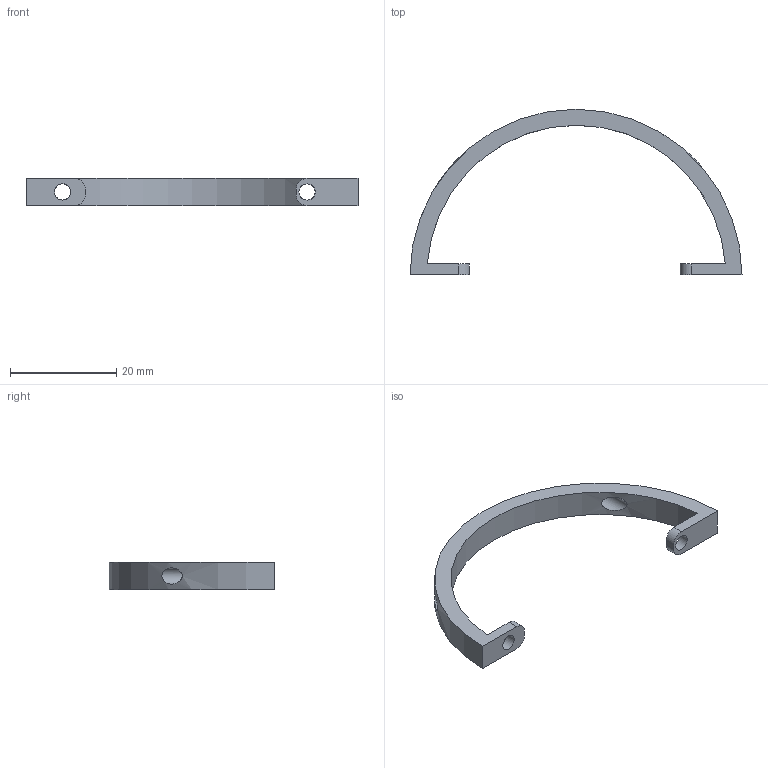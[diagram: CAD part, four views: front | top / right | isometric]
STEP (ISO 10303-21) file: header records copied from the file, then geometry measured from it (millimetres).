
FILE_DESCRIPTION(/* description */ ('STEP AP242 Edition 2','CAx-IF Rec.Pracs.---Representation and Presentation of Product Manufacturing Information (PMI)---4.0---2014-10-13','CAx-IF Rec.Pracs.---3D Tessellated Geometry---0.4---2014-09-14','2;1','CAx-IF Rec.Pracs.---User Defined Attributes---1.5---2016-08-15'),/* implementation_level */ '2;1');
FILE_NAME(/* name */ 'Assembly 1 - Part 9 (2)',/* time_stamp */ '2026-06-19T18:21:09Z',/* author */ (''),/* organization */ (''),/* preprocessor_version */ 'ST-DEVELOPER v20',/* originating_system */ 'ONSHAPE BY PTC INC, 1.216',/* authorisation */ ' ');
FILE_SCHEMA (('AP242_MANAGED_MODEL_BASED_3D_ENGINEERING_MIM_LF { 1 0 10303 442 3 1 4 }'));
Length unit declared in the file: metre
Products named in the file (1): Part 9
Bounding box: 62.45 x 31.11 x 5.11 mm (x, y, z)
Volume: 1514.8 mm3; surface area: 1830.6 mm2
Topology: 1 solids, 1 shells, 18 faces, 50 edges, 34 vertices
Faces by surface type: cylinder 10, plane 8
Full cylindrical faces by diameter (mm): 3.048 x2, 3.056 x2
Entity records: 652 total; most frequent: CARTESIAN_POINT 169, DIRECTION 94, ORIENTED_EDGE 88, EDGE_CURVE 44, AXIS2_PLACEMENT_3D 35, VERTEX_POINT 32, EDGE_LOOP 30, FACE_BOUND 30
